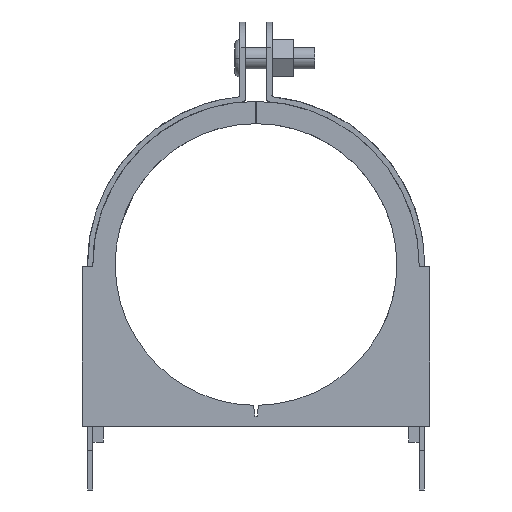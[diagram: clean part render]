
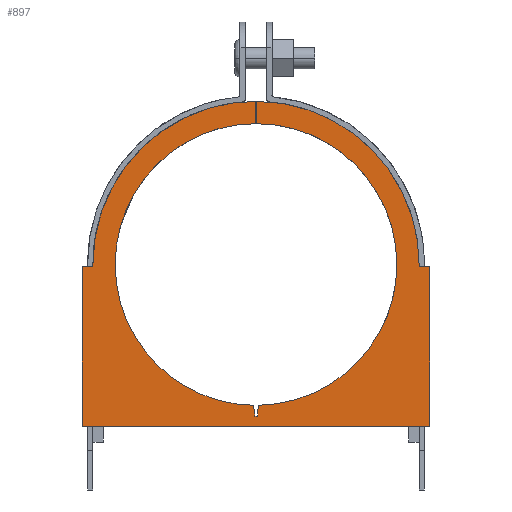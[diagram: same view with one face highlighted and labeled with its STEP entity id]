
A CAD part, front view. The second image highlights one B-rep face of the part: STEP entity #897.
In plain terms, the highlighted planar face has unit normal (0, -1, 0).
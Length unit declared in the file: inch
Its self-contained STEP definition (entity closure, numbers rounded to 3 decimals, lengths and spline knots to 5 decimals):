
#897=ADVANCED_FACE('',(#1770),#1771,.T.);
#1770=FACE_OUTER_BOUND('',#3505,.T.);
#1771=PLANE('',#3506);
#3505=EDGE_LOOP('',(#4883,#4884,#4885,#4886,#4887,#4888,#4889,#4890,#4891,#4892,#4893,#4894,#4895,#4896,#4897,#4898,#4899,#4900,#4901));
#3506=AXIS2_PLACEMENT_3D('',#4902,#4903,#4904);
#4883=ORIENTED_EDGE('',*,*,#5085,.F.);
#4884=ORIENTED_EDGE('',*,*,#5139,.F.);
#4885=ORIENTED_EDGE('',*,*,#5076,.F.);
#4886=ORIENTED_EDGE('',*,*,#5440,.F.);
#4887=ORIENTED_EDGE('',*,*,#5146,.F.);
#4888=ORIENTED_EDGE('',*,*,#5235,.F.);
#4889=ORIENTED_EDGE('',*,*,#5203,.F.);
#4890=ORIENTED_EDGE('',*,*,#5316,.F.);
#4891=ORIENTED_EDGE('',*,*,#5162,.F.);
#4892=ORIENTED_EDGE('',*,*,#5081,.F.);
#4893=ORIENTED_EDGE('',*,*,#5054,.F.);
#4894=ORIENTED_EDGE('',*,*,#5208,.F.);
#4895=ORIENTED_EDGE('',*,*,#5412,.F.);
#4896=ORIENTED_EDGE('',*,*,#5298,.F.);
#4897=ORIENTED_EDGE('',*,*,#5312,.F.);
#4898=ORIENTED_EDGE('',*,*,#5142,.F.);
#4899=ORIENTED_EDGE('',*,*,#5099,.F.);
#4900=ORIENTED_EDGE('',*,*,#5191,.F.);
#4901=ORIENTED_EDGE('',*,*,#5275,.F.);
#4902=CARTESIAN_POINT('',(1.97981,-0.125,2.50487));
#4903=DIRECTION('',(0.0,-1.0,0.0));
#4904=DIRECTION('',(1.0,0.0,0.0));
#5054=EDGE_CURVE('',#5479,#5480,#5481,.T.);
#5076=EDGE_CURVE('',#5517,#5518,#5519,.T.);
#5081=EDGE_CURVE('',#5480,#5526,#5527,.T.);
#5085=EDGE_CURVE('',#5532,#5533,#5534,.T.);
#5099=EDGE_CURVE('',#5556,#5557,#5558,.T.);
#5139=EDGE_CURVE('',#5518,#5532,#5622,.T.);
#5142=EDGE_CURVE('',#5557,#5625,#5626,.T.);
#5146=EDGE_CURVE('',#5631,#5632,#5633,.T.);
#5162=EDGE_CURVE('',#5526,#5659,#5660,.T.);
#5191=EDGE_CURVE('',#5701,#5556,#5703,.T.);
#5203=EDGE_CURVE('',#5724,#5725,#5726,.T.);
#5208=EDGE_CURVE('',#5732,#5479,#5733,.T.);
#5235=EDGE_CURVE('',#5725,#5631,#5772,.T.);
#5275=EDGE_CURVE('',#5533,#5701,#5826,.T.);
#5298=EDGE_CURVE('',#5854,#5855,#5856,.T.);
#5312=EDGE_CURVE('',#5625,#5854,#5875,.T.);
#5316=EDGE_CURVE('',#5659,#5724,#5879,.T.);
#5412=EDGE_CURVE('',#5855,#5732,#5992,.T.);
#5440=EDGE_CURVE('',#5632,#5517,#6020,.T.);
#5479=VERTEX_POINT('',#6065);
#5480=VERTEX_POINT('',#6066);
#5481=B_SPLINE_CURVE_WITH_KNOTS('',3,(#6067,#6068,#6069,#6070),.UNSPECIFIED.,.F.,.F.,(4,4),(0.0,1.0),.UNSPECIFIED.);
#5517=VERTEX_POINT('',#6137);
#5518=VERTEX_POINT('',#6138);
#5519=B_SPLINE_CURVE_WITH_KNOTS('',3,(#6139,#6140,#6141,#6142),.UNSPECIFIED.,.F.,.F.,(4,4),(0.0,1.0),.UNSPECIFIED.);
#5526=VERTEX_POINT('',#6154);
#5527=LINE('',#6155,#6156);
#5532=VERTEX_POINT('',#6163);
#5533=VERTEX_POINT('',#6164);
#5534=LINE('',#6165,#6166);
#5556=VERTEX_POINT('',#6198);
#5557=VERTEX_POINT('',#6199);
#5558=LINE('',#6200,#6201);
#5622=LINE('',#6302,#6303);
#5625=VERTEX_POINT('',#6307);
#5626=LINE('',#6308,#6309);
#5631=VERTEX_POINT('',#6316);
#5632=VERTEX_POINT('',#6317);
#5633=B_SPLINE_CURVE_WITH_KNOTS('',3,(#6318,#6319,#6320,#6321),.UNSPECIFIED.,.F.,.F.,(4,4),(0.0,1.0),.UNSPECIFIED.);
#5659=VERTEX_POINT('',#6382);
#5660=LINE('',#6383,#6384);
#5701=VERTEX_POINT('',#6473);
#5703=LINE('',#6476,#6477);
#5724=VERTEX_POINT('',#6508);
#5725=VERTEX_POINT('',#6509);
#5726=LINE('',#6510,#6511);
#5732=VERTEX_POINT('',#6520);
#5733=B_SPLINE_CURVE_WITH_KNOTS('',3,(#6521,#6522,#6523,#6524),.UNSPECIFIED.,.F.,.F.,(4,4),(0.0,1.0),.UNSPECIFIED.);
#5772=B_SPLINE_CURVE_WITH_KNOTS('',3,(#6595,#6596,#6597,#6598),.UNSPECIFIED.,.F.,.F.,(4,4),(0.0,1.0),.UNSPECIFIED.);
#5826=LINE('',#6739,#6740);
#5854=VERTEX_POINT('',#6786);
#5855=VERTEX_POINT('',#6787);
#5856=B_SPLINE_CURVE_WITH_KNOTS('',3,(#6788,#6789,#6790,#6791),.UNSPECIFIED.,.F.,.F.,(4,4),(0.0,1.0),.UNSPECIFIED.);
#5875=LINE('',#6819,#6820);
#5879=LINE('',#6825,#6826);
#5992=LINE('',#7056,#7057);
#6020=LINE('',#7097,#7098);
#6065=CARTESIAN_POINT('',(0.32477,-0.125,2.65013));
#6066=CARTESIAN_POINT('',(1.95095,-0.125,0.99556));
#6067=CARTESIAN_POINT('',(0.32477,-0.125,2.65013));
#6068=CARTESIAN_POINT('',(0.32477,-0.125,1.74567));
#6069=CARTESIAN_POINT('',(1.05014,-0.125,1.01084));
#6070=CARTESIAN_POINT('',(1.95095,-0.125,0.99556));
#6137=CARTESIAN_POINT('',(1.9855,-0.125,4.56788));
#6138=CARTESIAN_POINT('',(3.89695,-0.125,2.65052));
#6139=CARTESIAN_POINT('',(1.9855,-0.125,4.56788));
#6140=CARTESIAN_POINT('',(3.04162,-0.125,4.56488));
#6141=CARTESIAN_POINT('',(3.89695,-0.125,3.70736));
#6142=CARTESIAN_POINT('',(3.89695,-0.125,2.65052));
#6154=CARTESIAN_POINT('',(1.96458,-0.125,0.86851));
#6155=CARTESIAN_POINT('',(1.95095,-0.125,0.99556));
#6156=VECTOR('',#7144,1.);
#6163=CARTESIAN_POINT('',(3.89728,-0.125,2.62382));
#6164=CARTESIAN_POINT('',(4.02228,-0.125,2.62382));
#6165=CARTESIAN_POINT('',(3.89728,-0.125,2.62382));
#6166=VECTOR('',#7147,1.0);
#6198=CARTESIAN_POINT('',(-0.06268,-0.125,0.75));
#6199=CARTESIAN_POINT('',(-0.06268,-0.125,2.62382));
#6200=CARTESIAN_POINT('',(-0.06268,-0.125,0.75));
#6201=VECTOR('',#7158,1.0);
#6302=CARTESIAN_POINT('',(3.89695,-0.125,2.65052));
#6303=VECTOR('',#7181,1.0);
#6307=CARTESIAN_POINT('',(0.06232,-0.125,2.62382));
#6308=CARTESIAN_POINT('',(-0.06268,-0.125,2.62382));
#6309=VECTOR('',#7183,1.0);
#6316=CARTESIAN_POINT('',(3.63478,-0.125,2.65013));
#6317=CARTESIAN_POINT('',(1.98566,-0.125,4.30521));
#6318=CARTESIAN_POINT('',(3.63478,-0.125,2.65013));
#6319=CARTESIAN_POINT('',(3.63478,-0.125,3.5622));
#6320=CARTESIAN_POINT('',(2.897,-0.125,4.30205));
#6321=CARTESIAN_POINT('',(1.98566,-0.125,4.30521));
#6382=CARTESIAN_POINT('',(1.98026,-0.125,0.86405));
#6383=CARTESIAN_POINT('',(1.96458,-0.125,0.86851));
#6384=VECTOR('',#7197,1.0);
#6473=CARTESIAN_POINT('',(4.02228,-0.125,0.75));
#6476=CARTESIAN_POINT('',(4.02228,-0.125,0.75));
#6477=VECTOR('',#7217,1.0);
#6508=CARTESIAN_POINT('',(1.99591,-0.125,0.86851));
#6509=CARTESIAN_POINT('',(2.0078,-0.125,0.99554));
#6510=CARTESIAN_POINT('',(1.99591,-0.125,0.86851));
#6511=VECTOR('',#7228,1.0);
#6520=CARTESIAN_POINT('',(1.97439,-0.125,4.30521));
#6521=CARTESIAN_POINT('',(1.97439,-0.125,4.30521));
#6522=CARTESIAN_POINT('',(1.06286,-0.125,4.30229));
#6523=CARTESIAN_POINT('',(0.32477,-0.125,3.56234));
#6524=CARTESIAN_POINT('',(0.32477,-0.125,2.65013));
#6595=CARTESIAN_POINT('',(2.0078,-0.125,0.99554));
#6596=CARTESIAN_POINT('',(2.90891,-0.125,1.0105));
#6597=CARTESIAN_POINT('',(3.63478,-0.125,1.74544));
#6598=CARTESIAN_POINT('',(3.63478,-0.125,2.65013));
#6739=CARTESIAN_POINT('',(4.02228,-0.125,2.62382));
#6740=VECTOR('',#7258,1.0);
#6786=CARTESIAN_POINT('',(0.06277,-0.125,2.65052));
#6787=CARTESIAN_POINT('',(1.97422,-0.125,4.56788));
#6788=CARTESIAN_POINT('',(0.06277,-0.125,2.65052));
#6789=CARTESIAN_POINT('',(0.06277,-0.125,3.70728));
#6790=CARTESIAN_POINT('',(0.91816,-0.125,4.56478));
#6791=CARTESIAN_POINT('',(1.97422,-0.125,4.56788));
#6819=CARTESIAN_POINT('',(0.06232,-0.125,2.62382));
#6820=VECTOR('',#7277,1.0);
#6825=CARTESIAN_POINT('',(1.98026,-0.125,0.86405));
#6826=VECTOR('',#7279,1.);
#7056=CARTESIAN_POINT('',(1.97422,-0.125,4.56788));
#7057=VECTOR('',#7313,1.0);
#7097=CARTESIAN_POINT('',(1.98566,-0.125,4.30521));
#7098=VECTOR('',#7317,1.0);
#7144=DIRECTION('',(0.107,0.0,-0.994));
#7147=DIRECTION('',(1.0,0.0,0.0));
#7158=DIRECTION('',(0.0,0.0,1.0));
#7181=DIRECTION('',(0.012,0.0,-1.));
#7183=DIRECTION('',(1.0,0.0,0.0));
#7197=DIRECTION('',(0.962,0.0,-0.274));
#7217=DIRECTION('',(-1.0,0.0,0.0));
#7228=DIRECTION('',(0.093,0.0,0.996));
#7258=DIRECTION('',(0.0,0.0,-1.0));
#7277=DIRECTION('',(0.017,0.0,1.));
#7279=DIRECTION('',(0.962,0.0,0.274));
#7313=DIRECTION('',(0.001,0.0,-1.));
#7317=DIRECTION('',(-0.001,0.0,1.));
